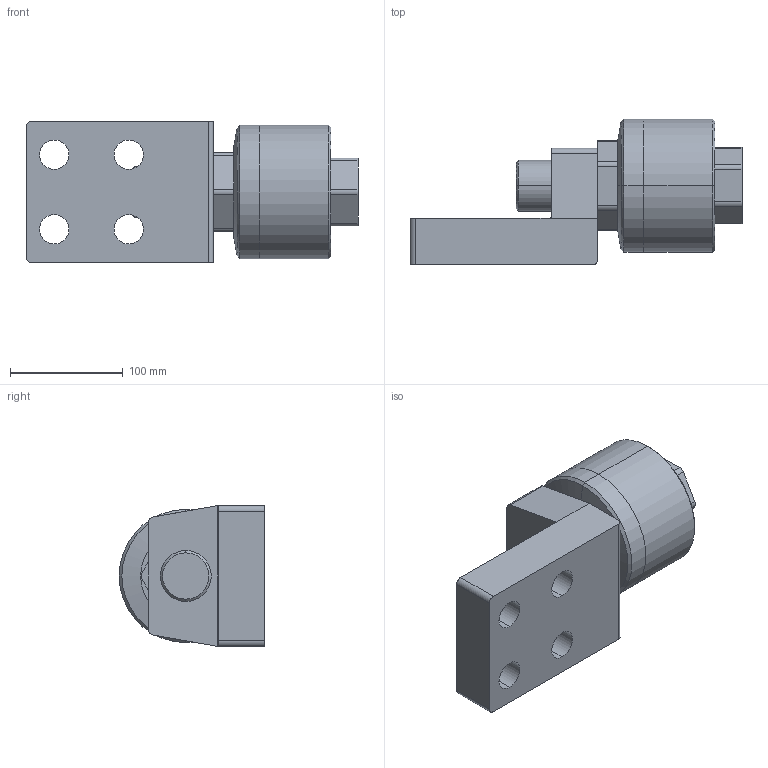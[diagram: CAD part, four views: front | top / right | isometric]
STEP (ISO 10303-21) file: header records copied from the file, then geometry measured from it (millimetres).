
FILE_DESCRIPTION (( 'STEP AP203' ), '1' );
FILE_NAME ('FCM45-1.5-L.STEP', '2016-04-14T02:02:35', ( '' ), ( '' ), 'SwSTEP 2.0', 'SolidWorks 2014', '' );
FILE_SCHEMA (( 'CONFIG_CONTROL_DESIGN' ));
Length unit declared in the file: millimetre
Products named in the file (3): FCM45-1.5; FCM45-1.5-L; FCM45-L
Assembly tree (2 placements, depth 2):
  FCM45-1.5-L
    FCM45-1.5
    FCM45-L
Bounding box: 294 x 129 x 125 mm (x, y, z)
Volume: 2123482.5 mm3; surface area: 171021.7 mm2
Topology: 2 solids, 2 shells, 72 faces, 180 edges, 116 vertices
Faces by surface type: cylinder 36, plane 28, cone 8
Entity records: 2489 total; most frequent: DIRECTION 408, CARTESIAN_POINT 379, ORIENTED_EDGE 360, EDGE_CURVE 180, AXIS2_PLACEMENT_3D 153, VERTEX_POINT 116, LINE 102, VECTOR 102
